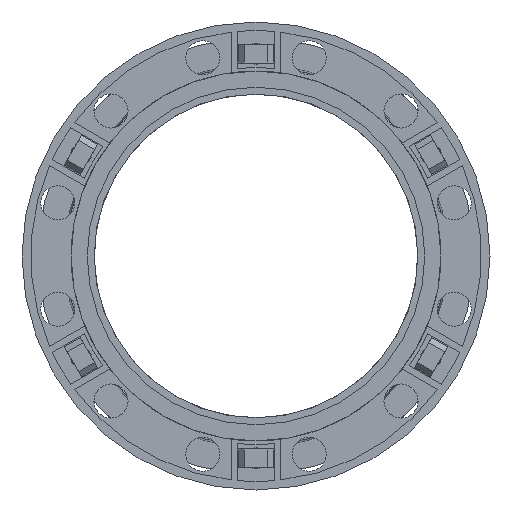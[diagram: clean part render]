
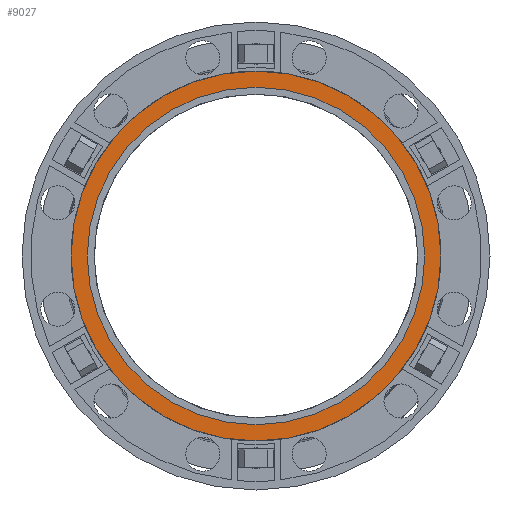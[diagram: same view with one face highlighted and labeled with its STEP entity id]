
A CAD part, front view. The second image highlights one B-rep face of the part: STEP entity #9027.
In plain terms, the highlighted planar face has unit normal (0, -1, 0).
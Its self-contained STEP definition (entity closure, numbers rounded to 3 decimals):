
#70 = ORIENTED_EDGE ( 'NONE', *, *, #19189, .T. ) ;
#1364 = CIRCLE ( 'NONE', #8650, 160. ) ;
#1472 = DIRECTION ( 'NONE',  ( 0., 1., 0. ) ) ;
#2246 = DIRECTION ( 'NONE',  ( 0., 1., 0. ) ) ;
#2321 = CARTESIAN_POINT ( 'NONE',  ( 0., -3., -146. ) ) ;
#2556 = CARTESIAN_POINT ( 'NONE',  ( 0., -3., 146. ) ) ;
#2997 = CARTESIAN_POINT ( 'NONE',  ( 0., -3., 0. ) ) ;
#3213 = EDGE_CURVE ( 'Defeatured_0_304+Defeatured_0_376+Defeatured_0_376+Defeatured_0_376', #5172, #16483, #18872, .T. ) ;
#3283 = CARTESIAN_POINT ( 'NONE',  ( 0., -3., 0. ) ) ;
#3386 = DIRECTION ( 'NONE',  ( 0., 1., 0. ) ) ;
#3630 = AXIS2_PLACEMENT_3D ( 'NONE', #4563, #1472, #6425 ) ;
#4500 = DIRECTION ( 'NONE',  ( 0., 0., 1. ) ) ;
#4563 = CARTESIAN_POINT ( 'NONE',  ( 0., -3., 0. ) ) ;
#4741 = DIRECTION ( 'NONE',  ( 0., 1., 0. ) ) ;
#5172 = VERTEX_POINT ( 'NONE', #2556 ) ;
#5572 = AXIS2_PLACEMENT_3D ( 'NONE', #2997, #4741, #7955 ) ;
#5715 = EDGE_CURVE ( 'Defeatured_0_305+Defeatured_0_304+Defeatured_0_304+Defeatured_0_304', #5977, #16648, #18637, .T. ) ;
#5977 = VERTEX_POINT ( 'NONE', #20037 ) ;
#6155 = ORIENTED_EDGE ( 'NONE', *, *, #9182, .F. ) ;
#6425 = DIRECTION ( 'NONE',  ( 0., 0., 1. ) ) ;
#6498 = DIRECTION ( 'NONE',  ( 0., 0., 1. ) ) ;
#7852 = EDGE_LOOP ( 'NONE', ( #6155, #14174 ) ) ;
#7955 = DIRECTION ( 'NONE',  ( 0., 0., 1. ) ) ;
#8650 = AXIS2_PLACEMENT_3D ( 'NONE', #9811, #2246, #18115 ) ;
#9027 = ADVANCED_FACE ( 'Defeatured_0_304', ( #14181, #14388 ), #9305, .F. ) ;
#9182 = EDGE_CURVE ( 'Defeatured_0_305+Defeatured_0_304+Defeatured_0_304+Defeatured_0_304', #16648, #5977, #1364, .T. ) ;
#9305 = PLANE ( 'NONE',  #15599 ) ;
#9811 = CARTESIAN_POINT ( 'NONE',  ( 0., -3., 0. ) ) ;
#11876 = CIRCLE ( 'NONE', #5572, 146. ) ;
#12657 = CARTESIAN_POINT ( 'NONE',  ( 0., -3., -160. ) ) ;
#14174 = ORIENTED_EDGE ( 'NONE', *, *, #5715, .F. ) ;
#14181 = FACE_BOUND ( 'NONE', #18188, .T. ) ;
#14319 = AXIS2_PLACEMENT_3D ( 'NONE', #18917, #20473, #4500 ) ;
#14388 = FACE_OUTER_BOUND ( 'NONE', #7852, .T. ) ;
#15599 = AXIS2_PLACEMENT_3D ( 'NONE', #3283, #3386, #6498 ) ;
#16483 = VERTEX_POINT ( 'NONE', #2321 ) ;
#16585 = ORIENTED_EDGE ( 'NONE', *, *, #3213, .T. ) ;
#16648 = VERTEX_POINT ( 'NONE', #12657 ) ;
#18115 = DIRECTION ( 'NONE',  ( 0., 0., 1. ) ) ;
#18188 = EDGE_LOOP ( 'NONE', ( #70, #16585 ) ) ;
#18637 = CIRCLE ( 'NONE', #14319, 160. ) ;
#18872 = CIRCLE ( 'NONE', #3630, 146. ) ;
#18917 = CARTESIAN_POINT ( 'NONE',  ( 0., -3., 0. ) ) ;
#19189 = EDGE_CURVE ( 'Defeatured_0_304+Defeatured_0_376+Defeatured_0_376+Defeatured_0_376', #16483, #5172, #11876, .T. ) ;
#20037 = CARTESIAN_POINT ( 'NONE',  ( 0., -3., 160. ) ) ;
#20473 = DIRECTION ( 'NONE',  ( 0., 1., 0. ) ) ;
